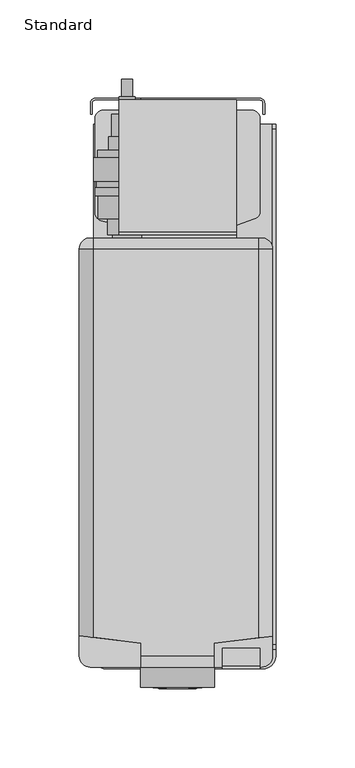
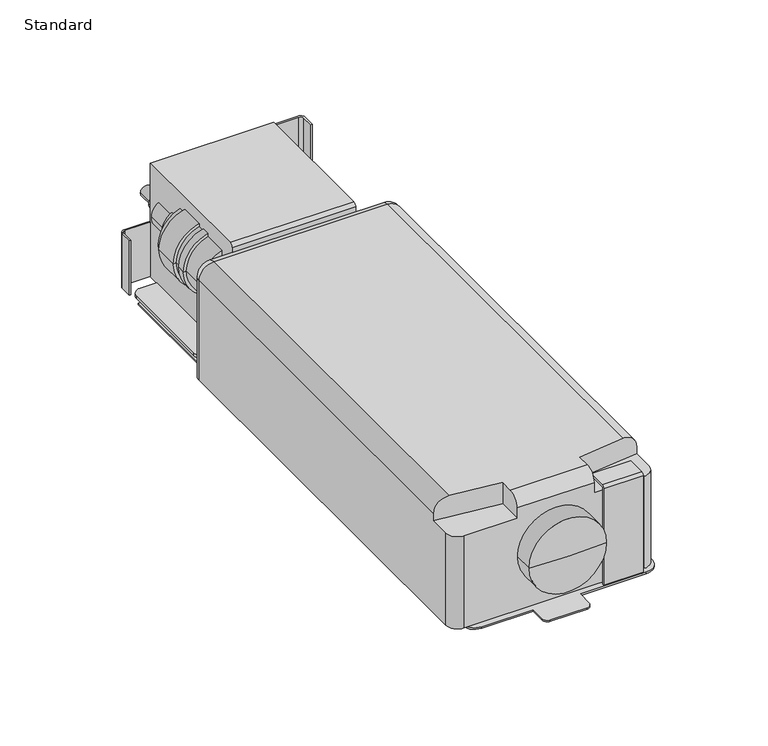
"""IFC4 building model written with IfcOpenShell, lengths in millimetres: proxy geometry, X_Soap Dispenser-Wall-Duracube-Automatic BMSD : Standard."""

from ifc_helpers import new_model, si_unit, point, frame, frame_2d, origin, origin_with_axes, place, context, project, spatial, polyline, circle_curve, ellipse_curve, trimmed, segment, composite_curve, outline, extrude, source, transform, mapped, element, save
from ifc_brep_helpers import plane_surface, cylinder_surface, revolved_surface, advanced_brep


def standard_a875b074(model_context):
    return source(origin(), model_context, "Body", "SolidModel", [
        advanced_brep(
        [(52.0496867, 180.0, 73.0), (-23.0637667, 180.0, 73.0), (-23.0637667, 179.0, 73.0), (52.0496867, 179.0, 73.0), (54.0496867, 177.0, 73.0), (54.0496867, 170.0, 73.0), (55.0496867, 170.0, 73.0), (55.0496867, 177.0, 73.0), (52.0496867, 180.0, 3.0), (55.0496867, 177.0, 3.0), (55.0496867, 170.0, 3.0), (54.0496867, 170.0, 3.0), (54.0496867, 177.0, 3.0), (52.0496867, 179.0, 3.0), (-51.9503133, 179.0, 3.0), (-53.9503133, 177.0, 3.0), (-53.9503133, 170.0, 3.0), (-54.9503133, 170.0, 3.0), (-54.9503133, 177.0, 3.0), (-51.9503133, 180.0, 3.0), (-23.0637667, 179.0, 37.5), (-51.9503133, 179.0, 37.5), (-53.9503133, 177.0, 37.5), (-53.9503133, 170.0, 37.5), (-54.9503133, 170.0, 37.5), (-54.9503133, 177.0, 37.5), (-51.9503133, 180.0, 37.5), (-23.0637667, 180.0, 37.5)],
        [
            (0, 1),
            (1, 2),
            (2, 3),
            (3, 4, circle_curve(frame((52.0496867, 177.0, 73.0), z_axis=(0.0, 0.0, -1.0), x_axis=(1.0, 0.0, 0.0)), 2.0)),
            (4, 5),
            (5, 6),
            (6, 7),
            (7, 0, circle_curve(frame((52.0496867, 177.0, 73.0), z_axis=(0.0, 0.0, 1.0), x_axis=(1.0, 0.0, 0.0)), 3.0)),
            (8, 9, circle_curve(frame((52.0496867, 177.0, 3.0), z_axis=(0.0, 0.0, -1.0), x_axis=(1.0, 0.0, 0.0)), 3.0)),
            (9, 10),
            (10, 11),
            (11, 12),
            (12, 13, circle_curve(frame((52.0496867, 177.0, 3.0), z_axis=(0.0, 0.0, 1.0), x_axis=(1.0, 0.0, 0.0)), 2.0)),
            (13, 14),
            (14, 15, circle_curve(frame((-51.9503133, 177.0, 3.0), z_axis=(0.0, 0.0, 1.0), x_axis=(1.0, 0.0, 0.0)), 2.0)),
            (15, 16),
            (16, 17),
            (17, 18),
            (18, 19, circle_curve(frame((-51.9503133, 177.0, 3.0), z_axis=(0.0, 0.0, -1.0), x_axis=(1.0, 0.0, 0.0)), 3.0)),
            (19, 8),
            (7, 9),
            (8, 0),
            (6, 10),
            (5, 11),
            (4, 12),
            (3, 13),
            (2, 20),
            (20, 21),
            (21, 14),
            (21, 22, circle_curve(frame((-51.9503133, 177.0, 37.5), z_axis=(0.0, 0.0, 1.0), x_axis=(1.0, 0.0, 0.0)), 2.0)),
            (22, 15),
            (22, 23),
            (23, 16),
            (23, 24),
            (24, 17),
            (24, 25),
            (25, 18),
            (25, 26, circle_curve(frame((-51.9503133, 177.0, 37.5), z_axis=(0.0, 0.0, -1.0), x_axis=(1.0, 0.0, 0.0)), 3.0)),
            (26, 19),
            (26, 27),
            (27, 1),
            (27, 20),
        ],
        [
            plane_surface(frame((55.0496867, 177.0, 73.0), z_axis=(0.0, 0.0, 1.0), x_axis=(0.0, -1.0, 0.0))),
            plane_surface(frame((55.0496867, 177.0, 3.0), z_axis=(0.0, 0.0, -1.0), x_axis=(0.0, 1.0, 0.0))),
            cylinder_surface(frame((52.0496867, 177.0, 3.0), z_axis=(0.0, 0.0, 1.0), x_axis=(1.0, 0.0, 0.0)), 3.0),
            plane_surface(frame((55.0496867, 177.0, 73.0), z_axis=(1.0, 0.0, 0.0), x_axis=(0.0, 0.0, -1.0))),
            plane_surface(frame((55.0496867, 170.0, 73.0), z_axis=(0.0, -1.0, 0.0), x_axis=(0.0, 0.0, -1.0))),
            plane_surface(frame((54.0496867, 170.0, 73.0), z_axis=(-1.0, 0.0, 0.0), x_axis=(0.0, 0.0, -1.0))),
            revolved_surface(polyline([(54.0496867, 177.0, 3.0), (54.0496867, 177.0, 73.0)]), (52.0496867, 177.0, 3.0), (0.0, 0.0, -1.0)),
            plane_surface(frame((52.0496867, 179.0, 73.0), z_axis=(0.0, -1.0, 0.0), x_axis=(0.0, 0.0, -1.0))),
            revolved_surface(polyline([(-49.9503133, 177.0, 3.0), (-49.9503133, 177.0, 37.5)]), (-51.9503133, 177.0, 3.0), (0.0, 0.0, -1.0)),
            plane_surface(frame((-53.9503133, 177.0, 73.0), z_axis=(1.0, 0.0, 0.0), x_axis=(0.0, 0.0, -1.0))),
            plane_surface(frame((-53.9503133, 170.0, 73.0), z_axis=(0.0, -1.0, 0.0), x_axis=(0.0, 0.0, -1.0))),
            plane_surface(frame((-54.9503133, 170.0, 73.0), z_axis=(-1.0, 0.0, 0.0), x_axis=(0.0, 0.0, -1.0))),
            cylinder_surface(frame((-51.9503133, 177.0, 3.0), z_axis=(0.0, 0.0, 1.0), x_axis=(1.0, 0.0, 0.0)), 3.0),
            plane_surface(frame((-51.9503133, 180.0, 73.0), z_axis=(0.0, 1.0, 0.0), x_axis=(0.0, 0.0, -1.0))),
            plane_surface(frame((-23.0637667, 170.0, 75.0), z_axis=(-1.0, 0.0, 0.0), x_axis=(0.0, 1.0, 0.0))),
            plane_surface(frame((-23.0637667, 170.0, 37.5), z_axis=(0.0, 0.0, 1.0), x_axis=(0.0, 1.0, 0.0))),
        ],
        [
            (0, [[1, 2, 3, 4, 5, 6, 7, 8]]),
            (1, [[9, 10, 11, 12, 13, 14, 15, 16, 17, 18, 19, 20]]),
            (2, [[21, -9, 22, -8]]),
            (3, [[23, -10, -21, -7]]),
            (4, [[24, -11, -23, -6]]),
            (5, [[25, -12, -24, -5]]),
            (6, [[26, -13, -25, -4]]),
            (7, [[-26, -3, 27, 28, 29, -14]]),
            (8, [[-29, 30, 31, -15]]),
            (9, [[-31, 32, 33, -16]]),
            (10, [[-33, 34, 35, -17]]),
            (11, [[-35, 36, 37, -18]]),
            (12, [[-37, 38, 39, -19]]),
            (13, [[-39, 40, 41, -1, -22, -20]]),
            (14, [[-27, -2, -41, 42]]),
            (15, [[-40, -38, -36, -34, -32, -30, -28, -42]]),
        ],
    ),
        extrude(outline(composite_curve([segment(polyline([(-46.9197394, 172.4794833), (47.0496867, 172.4794833)]), True, "CONTINUOUS"), segment(trimmed(circle_curve(frame_2d((47.0496867, 167.4794833)), 5.0), [point((47.0496867, 172.4794833))], [point((52.0496867, 167.4794833))], False, "CARTESIAN"), True, "CONTINUOUS"), segment(polyline([(52.0496867, 167.4794833), (52.0496867, 108.7326918)]), True, "CONTINUOUS"), segment(trimmed(circle_curve(frame_2d((47.0496867, 108.7326918)), 5.0), [point((52.0496867, 108.7326918))], [point((48.6775275, 104.0050989))], False, "CARTESIAN"), True, "CONTINUOUS"), segment(polyline([(48.6775275, 104.0050989), (37.1797908, 100.0461107), (37.1797908, 92.0), (-40.9493982, 92.0), (-40.9493982, 101.0605059), (-48.2138346, 103.0070058)]), True, "CONTINUOUS"), segment(trimmed(circle_curve(frame_2d((-46.9197394, 107.8366349)), 5.0), [point((-48.2138346, 103.0070058))], [point((-51.9197394, 107.8366349))], False, "CARTESIAN"), True, "CONTINUOUS"), segment(polyline([(-51.9197394, 107.8366349), (-51.9197394, 167.4794833)]), True, "CONTINUOUS"), segment(trimmed(circle_curve(frame_2d((-46.9197394, 167.4794833)), 5.0), [point((-51.9197394, 167.4794833))], [point((-46.9197394, 172.4794833))], False, "CARTESIAN"), True, "CONTINUOUS")], self_intersect=False)), frame((0.0, 0.0, 1.0), z_axis=(0.0, 0.0, 1.0), x_axis=(1.0, 0.0, 0.0)), (0.0, 0.0, 1.0), 2.0),
        extrude(outline(composite_curve([segment(polyline([(14.1113165, -179.474207), (14.1113165, -189.0)]), True, "CONTINUOUS"), segment(trimmed(circle_curve(frame_2d((11.1113165, -189.0)), 3.0), [point((14.1113165, -189.0))], [point((11.1113165, -192.0))], False, "CARTESIAN"), True, "CONTINUOUS"), segment(polyline([(11.1113165, -192.0), (-11.1113165, -192.0)]), True, "CONTINUOUS"), segment(trimmed(circle_curve(frame_2d((-11.1113165, -189.0)), 3.0), [point((-11.1113165, -192.0))], [point((-14.1113165, -189.0))], False, "CARTESIAN"), True, "CONTINUOUS"), segment(polyline([(-14.1113165, -189.0), (-14.1113165, -179.474207), (-45.0, -179.474207)]), True, "CONTINUOUS"), segment(trimmed(circle_curve(frame_2d((-45.0, -171.474207)), 8.0), [point((-45.0, -179.474207))], [point((-53.0, -171.474207))], False, "CARTESIAN"), True, "CONTINUOUS"), segment(polyline([(-53.0, -171.474207), (-53.0, 163.6786842), (62.0, 163.6786842), (62.0, -171.474207)]), True, "CONTINUOUS"), segment(trimmed(circle_curve(frame_2d((54.0, -171.474207)), 8.0), [point((62.0, -171.474207))], [point((54.0, -179.474207))], False, "CARTESIAN"), True, "CONTINUOUS"), segment(polyline([(54.0, -179.474207), (14.1113165, -179.474207)]), True, "CONTINUOUS")], self_intersect=False)), origin_with_axes(), (0.0, 0.0, 1.0), 1.0),
        extrude(outline(composite_curve([segment(polyline([(-178.474207, 1.0), (-167.286782, 1.0), (-167.286782, 0.0), (-177.974207, 0.0)]), True, "CONTINUOUS"), segment(trimmed(circle_curve(frame_2d((-177.974207, 1.5)), 1.5), [point((-177.974207, 0.0))], [point((-179.474207, 1.5))], False, "CARTESIAN"), True, "CONTINUOUS"), segment(polyline([(-179.474207, 1.5), (-179.474207, 62.8136562)]), True, "CONTINUOUS"), segment(trimmed(circle_curve(frame_2d((-177.974207, 62.8136562)), 1.5), [point((-179.474207, 62.8136562))], [point((-177.974207, 64.3136562))], False, "CARTESIAN"), True, "CONTINUOUS"), segment(polyline([(-177.974207, 64.3136562), (-166.474207, 64.3136562), (-166.474207, 63.3136562), (-178.474207, 63.3136562), (-178.474207, 1.0)]), True, "CONTINUOUS")], self_intersect=False)), frame((28.2978962, 0.0, 0.0), z_axis=(1.0, 0.0, 0.0), x_axis=(0.0, 1.0, 0.0)), (0.0, 0.0, 1.0), 23.7021038),
        extrude(outline(composite_curve([segment(polyline([(163.6786842, 9.0050868), (163.6786842, 0.0), (-167.286782, 0.0), (-167.286782, 9.0050868)]), True, "CONTINUOUS"), segment(trimmed(circle_curve(frame_2d((-164.286782, 9.0050868)), 3.0), [point((-167.286782, 9.0050868))], [point((-164.286782, 12.0050868))], False, "CARTESIAN"), True, "CONTINUOUS"), segment(polyline([(-164.286782, 12.0050868), (160.6786842, 12.0050868)]), True, "CONTINUOUS"), segment(trimmed(circle_curve(frame_2d((160.6786842, 9.0050868)), 3.0), [point((160.6786842, 12.0050868))], [point((163.6786842, 9.0050868))], False, "CARTESIAN"), True, "CONTINUOUS")], self_intersect=False)), frame((60.0, 0.0, 0.0), z_axis=(1.0, 0.0, 0.0), x_axis=(0.0, 1.0, 0.0)), (0.0, 0.0, 1.0), 2.0),
        advanced_brep(
        [(-35.9984832, 179.0, 73.0), (-35.9984832, 96.0, 73.0), (-35.9984832, 96.0, 3.0), (-35.9984832, 179.0, 3.0), (-36.9984832, 96.0, 75.0), (-36.9984832, 179.0, 75.0), (-36.9984832, 179.0, 3.0), (-36.9984832, 94.0, 3.0), (-36.9984832, 94.0, 73.0), (37.1797908, 179.0, 75.0), (37.1797908, 179.0, 3.0), (36.1797908, 179.0, 3.0), (36.1797908, 179.0, 73.0), (36.1797908, 96.0, 3.0), (37.1797908, 94.0, 3.0), (37.1797908, 96.0, 75.0), (37.1797908, 94.0, 73.0), (36.1797908, 96.0, 73.0)],
        [
            (0, 1),
            (1, 2),
            (2, 3),
            (3, 0),
            (4, 5),
            (5, 6),
            (6, 7),
            (7, 8),
            (8, 4, circle_curve(frame((-36.9984832, 96.0, 73.0), z_axis=(-1.0, 0.0, 0.0), x_axis=(0.0, -1.0, 0.0)), 2.0)),
            (3, 6),
            (5, 9),
            (9, 10),
            (10, 11),
            (11, 12),
            (12, 0),
            (2, 13),
            (13, 11),
            (10, 14),
            (14, 7),
            (15, 16, circle_curve(frame((37.1797908, 96.0, 73.0), z_axis=(1.0, 0.0, 0.0), x_axis=(0.0, -1.0, 0.0)), 2.0)),
            (16, 14),
            (9, 15),
            (4, 15),
            (12, 17),
            (17, 1),
            (17, 13),
            (16, 8),
        ],
        [
            plane_surface(frame((-35.9984832, 96.0, 75.0), z_axis=(1.0, 0.0, 0.0), x_axis=(0.0, 0.0, 1.0))),
            plane_surface(frame((-36.9984832, 96.0, 75.0), z_axis=(-1.0, 0.0, 0.0), x_axis=(0.0, 0.0, -1.0))),
            plane_surface(frame((-35.9984832, 179.0, 73.0), z_axis=(0.0, 1.0, 0.0), x_axis=(-1.0, 0.0, 0.0))),
            plane_surface(frame((-35.9984832, 179.0, 3.0), z_axis=(0.0, 0.0, -1.0), x_axis=(-1.0, 0.0, 0.0))),
            plane_surface(frame((37.1797908, 180.0, 75.0), z_axis=(1.0, 0.0, 0.0), x_axis=(0.0, 1.0, 0.0))),
            plane_surface(frame((37.1797908, 96.0, 75.0), z_axis=(0.0, 0.0, 1.0), x_axis=(-1.0, 0.0, 0.0))),
            plane_surface(frame((37.1797908, 179.0, 73.0), z_axis=(0.0, 0.0, -1.0), x_axis=(-1.0, 0.0, 0.0))),
            plane_surface(frame((37.1797908, 96.0, 73.0), z_axis=(0.0, 1.0, 0.0), x_axis=(-1.0, 0.0, 0.0))),
            plane_surface(frame((37.1797908, 94.0, 3.0), z_axis=(0.0, -1.0, 0.0), x_axis=(-1.0, 0.0, 0.0))),
            cylinder_surface(frame((-36.9984832, 96.0, 73.0), z_axis=(1.0, 0.0, 0.0), x_axis=(0.0, -1.0, 0.0)), 2.0),
            plane_surface(frame((36.1797908, 96.0, 75.0), z_axis=(-1.0, 0.0, 0.0), x_axis=(0.0, 0.0, -1.0))),
        ],
        [
            (0, [[1, 2, 3, 4]]),
            (1, [[5, 6, 7, 8, 9]]),
            (2, [[10, -6, 11, 12, 13, 14, 15, -4]]),
            (3, [[16, 17, -13, 18, 19, -7, -10, -3]]),
            (4, [[20, 21, -18, -12, 22]]),
            (5, [[-11, -5, 23, -22]]),
            (6, [[-15, 24, 25, -1]]),
            (7, [[-25, 26, -16, -2]]),
            (8, [[27, -8, -19, -21]]),
            (9, [[-23, -9, -27, -20]]),
            (10, [[-26, -24, -14, -17]]),
        ],
    ),
        advanced_brep(
        [(-19.512913, 94.0, 47.65625), (-22.759613, 94.0, 47.65625), (-40.9493982, 94.0, 47.65625), (-44.1960982, 94.0, 47.65625), (-19.512913, 104.0, 47.65625), (-44.1960982, 104.0, 47.65625), (-13.5082634, 104.0, 47.65625), (-50.2007478, 104.0, 47.65625), (-13.5082634, 118.5738192, 47.65625), (-50.2007478, 118.5738192, 47.65625), (-11.6579934, 118.5738192, 47.65625), (-52.0510177, 118.5738192, 47.65625), (-11.6579934, 123.5738192, 47.65625), (-52.0510177, 123.5738192, 47.65625), (-12.7751375, 123.5738192, 47.65625), (-50.9338736, 123.5738192, 47.65625), (-12.7751375, 127.6506151, 47.65625), (-50.9338736, 127.6506151, 47.65625), (-10.8899569, 127.6506151, 47.65625), (-52.8190543, 127.6506151, 47.65625), (-10.8899569, 142.6506151, 47.65625), (-52.8190543, 142.6506151, 47.65625), (-13.1940666, 142.6506151, 47.65625), (-50.5149446, 142.6506151, 47.65625), (-13.1940666, 147.200637, 47.65625), (-50.5149446, 147.200637, 47.65625), (-20.350771, 147.200637, 47.65625), (-43.3582401, 147.200637, 47.65625), (-20.350771, 155.9283253, 47.65625), (-43.3582401, 155.9283253, 47.65625), (-22.2359517, 155.9283253, 47.65625), (-41.4730595, 155.9283253, 47.65625), (-22.2359517, 169.9249192, 47.65625), (-41.4730595, 169.9249192, 47.65625), (-26.9062858, 169.9249192, 47.65625), (-36.8027254, 169.9249192, 47.65625), (-26.9062858, 181.0963603, 47.65625), (-36.8027254, 181.0963603, 47.65625), (-28.3330731, 181.0963603, 47.65625), (-35.3759381, 181.0963603, 47.65625), (-28.3330731, 192.0, 47.65625), (-35.3759381, 192.0, 47.65625), (-31.8545056, 192.0, 47.65625), (-22.759613, 92.0, 47.65625), (-31.8545056, 92.0, 47.65625), (-40.9493982, 92.0, 47.65625)],
        [
            (0, 1),
            (1, 2, circle_curve(frame((-31.8545056, 94.0, 47.65625), z_axis=(0.0, 1.0, 0.0), x_axis=(-1.0, 0.0, 0.0)), 9.0948926)),
            (2, 3),
            (3, 0, circle_curve(frame((-31.8545056, 94.0, 47.65625), z_axis=(0.0, -1.0, 0.0), x_axis=(-1.0, 0.0, 0.0)), 12.3415926)),
            (2, 1, circle_curve(frame((-31.8545056, 94.0, 47.65625), z_axis=(0.0, 1.0, 0.0), x_axis=(-1.0, 0.0, 0.0)), 9.0948926)),
            (0, 3, circle_curve(frame((-31.8545056, 94.0, 47.65625), z_axis=(0.0, -1.0, 0.0), x_axis=(-1.0, 0.0, 0.0)), 12.3415926)),
            (4, 0),
            (3, 5),
            (5, 4, circle_curve(frame((-31.8545056, 104.0, 47.65625), z_axis=(0.0, -1.0, 0.0), x_axis=(-1.0, 0.0, 0.0)), 12.3415926)),
            (4, 5, circle_curve(frame((-31.8545056, 104.0, 47.65625), z_axis=(0.0, -1.0, 0.0), x_axis=(-1.0, 0.0, 0.0)), 12.3415926)),
            (6, 4),
            (5, 7),
            (7, 6, circle_curve(frame((-31.8545056, 104.0, 47.65625), z_axis=(0.0, -1.0, 0.0), x_axis=(-1.0, 0.0, 0.0)), 18.3462422)),
            (6, 7, circle_curve(frame((-31.8545056, 104.0, 47.65625), z_axis=(0.0, -1.0, 0.0), x_axis=(-1.0, 0.0, 0.0)), 18.3462422)),
            (8, 6),
            (7, 9),
            (9, 8, circle_curve(frame((-31.8545056, 118.5738192, 47.65625), z_axis=(0.0, -1.0, 0.0), x_axis=(-1.0, 0.0, 0.0)), 18.3462422)),
            (8, 9, circle_curve(frame((-31.8545056, 118.5738192, 47.65625), z_axis=(0.0, -1.0, 0.0), x_axis=(-1.0, 0.0, 0.0)), 18.3462422)),
            (10, 8),
            (9, 11),
            (11, 10, circle_curve(frame((-31.8545056, 118.5738192, 47.65625), z_axis=(0.0, -1.0, 0.0), x_axis=(-1.0, 0.0, 0.0)), 20.1965122)),
            (10, 11, circle_curve(frame((-31.8545056, 118.5738192, 47.65625), z_axis=(0.0, -1.0, 0.0), x_axis=(-1.0, 0.0, 0.0)), 20.1965122)),
            (12, 10),
            (11, 13),
            (13, 12, circle_curve(frame((-31.8545056, 123.5738192, 47.65625), z_axis=(0.0, -1.0, 0.0), x_axis=(-1.0, 0.0, 0.0)), 20.1965122)),
            (12, 13, circle_curve(frame((-31.8545056, 123.5738192, 47.65625), z_axis=(0.0, -1.0, 0.0), x_axis=(-1.0, 0.0, 0.0)), 20.1965122)),
            (14, 12),
            (13, 15),
            (15, 14, circle_curve(frame((-31.8545056, 123.5738192, 47.65625), z_axis=(0.0, -1.0, 0.0), x_axis=(-1.0, 0.0, 0.0)), 19.079368)),
            (14, 15, circle_curve(frame((-31.8545056, 123.5738192, 47.65625), z_axis=(0.0, -1.0, 0.0), x_axis=(-1.0, 0.0, 0.0)), 19.079368)),
            (16, 14),
            (15, 17),
            (17, 16, circle_curve(frame((-31.8545056, 127.6506151, 47.65625), z_axis=(0.0, -1.0, 0.0), x_axis=(-1.0, 0.0, 0.0)), 19.079368)),
            (16, 17, circle_curve(frame((-31.8545056, 127.6506151, 47.65625), z_axis=(0.0, -1.0, 0.0), x_axis=(-1.0, 0.0, 0.0)), 19.079368)),
            (18, 16),
            (17, 19),
            (19, 18, circle_curve(frame((-31.8545056, 127.6506151, 47.65625), z_axis=(0.0, -1.0, 0.0), x_axis=(-1.0, 0.0, 0.0)), 20.9645487)),
            (18, 19, circle_curve(frame((-31.8545056, 127.6506151, 47.65625), z_axis=(0.0, -1.0, 0.0), x_axis=(-1.0, 0.0, 0.0)), 20.9645487)),
            (20, 18),
            (19, 21),
            (21, 20, circle_curve(frame((-31.8545056, 142.6506151, 47.65625), z_axis=(0.0, -1.0, 0.0), x_axis=(-1.0, 0.0, 0.0)), 20.9645487)),
            (20, 21, circle_curve(frame((-31.8545056, 142.6506151, 47.65625), z_axis=(0.0, -1.0, 0.0), x_axis=(-1.0, 0.0, 0.0)), 20.9645487)),
            (22, 20),
            (21, 23),
            (23, 22, circle_curve(frame((-31.8545056, 142.6506151, 47.65625), z_axis=(0.0, -1.0, 0.0), x_axis=(-1.0, 0.0, 0.0)), 18.660439)),
            (22, 23, circle_curve(frame((-31.8545056, 142.6506151, 47.65625), z_axis=(0.0, -1.0, 0.0), x_axis=(-1.0, 0.0, 0.0)), 18.660439)),
            (24, 22),
            (23, 25),
            (25, 24, circle_curve(frame((-31.8545056, 147.200637, 47.65625), z_axis=(0.0, -1.0, 0.0), x_axis=(-1.0, 0.0, 0.0)), 18.660439)),
            (24, 25, circle_curve(frame((-31.8545056, 147.200637, 47.65625), z_axis=(0.0, -1.0, 0.0), x_axis=(-1.0, 0.0, 0.0)), 18.660439)),
            (26, 24),
            (25, 27),
            (27, 26, circle_curve(frame((-31.8545056, 147.200637, 47.65625), z_axis=(0.0, -1.0, 0.0), x_axis=(-1.0, 0.0, 0.0)), 11.5037346)),
            (26, 27, circle_curve(frame((-31.8545056, 147.200637, 47.65625), z_axis=(0.0, -1.0, 0.0), x_axis=(-1.0, 0.0, 0.0)), 11.5037346)),
            (28, 26),
            (27, 29),
            (29, 28, circle_curve(frame((-31.8545056, 155.9283253, 47.65625), z_axis=(0.0, -1.0, 0.0), x_axis=(-1.0, 0.0, 0.0)), 11.5037346)),
            (28, 29, circle_curve(frame((-31.8545056, 155.9283253, 47.65625), z_axis=(0.0, -1.0, 0.0), x_axis=(-1.0, 0.0, 0.0)), 11.5037346)),
            (30, 28),
            (29, 31),
            (31, 30, circle_curve(frame((-31.8545056, 155.9283253, 47.65625), z_axis=(0.0, -1.0, 0.0), x_axis=(-1.0, 0.0, 0.0)), 9.6185539)),
            (30, 31, circle_curve(frame((-31.8545056, 155.9283253, 47.65625), z_axis=(0.0, -1.0, 0.0), x_axis=(-1.0, 0.0, 0.0)), 9.6185539)),
            (32, 30),
            (31, 33),
            (33, 32, circle_curve(frame((-31.8545056, 169.9249192, 47.65625), z_axis=(0.0, -1.0, 0.0), x_axis=(-1.0, 0.0, 0.0)), 9.6185539)),
            (32, 33, circle_curve(frame((-31.8545056, 169.9249192, 47.65625), z_axis=(0.0, -1.0, 0.0), x_axis=(-1.0, 0.0, 0.0)), 9.6185539)),
            (34, 32),
            (33, 35),
            (35, 34, circle_curve(frame((-31.8545056, 169.9249192, 47.65625), z_axis=(0.0, -1.0, 0.0), x_axis=(-1.0, 0.0, 0.0)), 4.9482198)),
            (34, 35, circle_curve(frame((-31.8545056, 169.9249192, 47.65625), z_axis=(0.0, -1.0, 0.0), x_axis=(-1.0, 0.0, 0.0)), 4.9482198)),
            (36, 34),
            (35, 37),
            (37, 36, circle_curve(frame((-31.8545056, 181.0963603, 47.65625), z_axis=(0.0, -1.0, 0.0), x_axis=(-1.0, 0.0, 0.0)), 4.9482198)),
            (36, 37, circle_curve(frame((-31.8545056, 181.0963603, 47.65625), z_axis=(0.0, -1.0, 0.0), x_axis=(-1.0, 0.0, 0.0)), 4.9482198)),
            (38, 36),
            (37, 39),
            (39, 38, circle_curve(frame((-31.8545056, 181.0963603, 47.65625), z_axis=(0.0, -1.0, 0.0), x_axis=(-1.0, 0.0, 0.0)), 3.5214325)),
            (38, 39, circle_curve(frame((-31.8545056, 181.0963603, 47.65625), z_axis=(0.0, -1.0, 0.0), x_axis=(-1.0, 0.0, 0.0)), 3.5214325)),
            (40, 38),
            (39, 41),
            (41, 40, circle_curve(frame((-31.8545056, 192.0, 47.65625), z_axis=(0.0, -1.0, 0.0), x_axis=(-1.0, 0.0, 0.0)), 3.5214325)),
            (40, 41, circle_curve(frame((-31.8545056, 192.0, 47.65625), z_axis=(0.0, -1.0, 0.0), x_axis=(-1.0, 0.0, 0.0)), 3.5214325)),
            (42, 40),
            (41, 42),
            (43, 44),
            (44, 45),
            (45, 43, circle_curve(frame((-31.8545056, 92.0, 47.65625), z_axis=(0.0, -1.0, 0.0), x_axis=(-1.0, 0.0, 0.0)), 9.0948926)),
            (43, 45, circle_curve(frame((-31.8545056, 92.0, 47.65625), z_axis=(0.0, -1.0, 0.0), x_axis=(-1.0, 0.0, 0.0)), 9.0948926)),
            (1, 43),
            (45, 2),
        ],
        [
            plane_surface(frame((-31.8545056, 94.0, 47.65625), z_axis=(0.0, -1.0, 0.0), x_axis=(-1.0, 0.0, 0.0))),
            cylinder_surface(frame((-31.8545056, 192.0, 47.65625), z_axis=(0.0, 1.0, 0.0), x_axis=(-1.0, 0.0, 0.0)), 12.3415926),
            plane_surface(frame((-31.8545056, 104.0, 47.65625), z_axis=(0.0, -1.0, 0.0), x_axis=(-1.0, 0.0, 0.0))),
            cylinder_surface(frame((-31.8545056, 192.0, 47.65625), z_axis=(0.0, 1.0, 0.0), x_axis=(-1.0, 0.0, 0.0)), 18.3462422),
            plane_surface(frame((-31.8545056, 118.5738192, 47.65625), z_axis=(0.0, -1.0, 0.0), x_axis=(-1.0, 0.0, 0.0))),
            cylinder_surface(frame((-31.8545056, 192.0, 47.65625), z_axis=(0.0, 1.0, 0.0), x_axis=(-1.0, 0.0, 0.0)), 20.1965122),
            plane_surface(frame((-31.8545056, 123.5738192, 47.65625), z_axis=(0.0, 1.0, 0.0), x_axis=(-1.0, 0.0, 0.0))),
            cylinder_surface(frame((-31.8545056, 192.0, 47.65625), z_axis=(0.0, 1.0, 0.0), x_axis=(-1.0, 0.0, 0.0)), 19.079368),
            plane_surface(frame((-31.8545056, 127.6506151, 47.65625), z_axis=(0.0, -1.0, 0.0), x_axis=(-1.0, 0.0, 0.0))),
            cylinder_surface(frame((-31.8545056, 192.0, 47.65625), z_axis=(0.0, 1.0, 0.0), x_axis=(-1.0, 0.0, 0.0)), 20.9645487),
            plane_surface(frame((-31.8545056, 142.6506151, 47.65625), z_axis=(0.0, 1.0, 0.0), x_axis=(-1.0, 0.0, 0.0))),
            cylinder_surface(frame((-31.8545056, 192.0, 47.65625), z_axis=(0.0, 1.0, 0.0), x_axis=(-1.0, 0.0, 0.0)), 18.660439),
            plane_surface(frame((-31.8545056, 147.200637, 47.65625), z_axis=(0.0, 1.0, 0.0), x_axis=(-1.0, 0.0, 0.0))),
            cylinder_surface(frame((-31.8545056, 192.0, 47.65625), z_axis=(0.0, 1.0, 0.0), x_axis=(-1.0, 0.0, 0.0)), 11.5037346),
            plane_surface(frame((-31.8545056, 155.9283253, 47.65625), z_axis=(0.0, 1.0, 0.0), x_axis=(-1.0, 0.0, 0.0))),
            cylinder_surface(frame((-31.8545056, 192.0, 47.65625), z_axis=(0.0, 1.0, 0.0), x_axis=(-1.0, 0.0, 0.0)), 9.6185539),
            plane_surface(frame((-31.8545056, 169.9249192, 47.65625), z_axis=(0.0, 1.0, 0.0), x_axis=(-1.0, 0.0, 0.0))),
            cylinder_surface(frame((-31.8545056, 192.0, 47.65625), z_axis=(0.0, 1.0, 0.0), x_axis=(-1.0, 0.0, 0.0)), 4.9482198),
            plane_surface(frame((-31.8545056, 181.0963603, 47.65625), z_axis=(0.0, 1.0, 0.0), x_axis=(-1.0, 0.0, 0.0))),
            cylinder_surface(frame((-31.8545056, 192.0, 47.65625), z_axis=(0.0, 1.0, 0.0), x_axis=(-1.0, 0.0, 0.0)), 3.5214325),
            plane_surface(frame((-31.8545056, 192.0, 47.65625), z_axis=(0.0, 1.0, 0.0), x_axis=(-1.0, 0.0, 0.0))),
            plane_surface(frame((-31.8545056, 92.0, 47.65625), z_axis=(0.0, -1.0, 0.0), x_axis=(-1.0, 0.0, 0.0))),
            cylinder_surface(frame((-31.8545056, 192.0, 47.65625), z_axis=(0.0, 1.0, 0.0), x_axis=(-1.0, 0.0, 0.0)), 9.0948926),
        ],
        [
            (0, [[1, 2, 3, 4]]),
            (0, [[-3, 5, -1, 6]]),
            (1, [[7, -4, 8, 9]]),
            (1, [[-8, -6, -7, 10]]),
            (2, [[11, -9, 12, 13]]),
            (2, [[-12, -10, -11, 14]]),
            (3, [[15, -13, 16, 17]]),
            (3, [[-16, -14, -15, 18]]),
            (4, [[19, -17, 20, 21]]),
            (4, [[-20, -18, -19, 22]]),
            (5, [[23, -21, 24, 25]]),
            (5, [[-24, -22, -23, 26]]),
            (6, [[27, -25, 28, 29]]),
            (6, [[-28, -26, -27, 30]]),
            (7, [[31, -29, 32, 33]]),
            (7, [[-32, -30, -31, 34]]),
            (8, [[35, -33, 36, 37]]),
            (8, [[-36, -34, -35, 38]]),
            (9, [[39, -37, 40, 41]]),
            (9, [[-40, -38, -39, 42]]),
            (10, [[43, -41, 44, 45]]),
            (10, [[-44, -42, -43, 46]]),
            (11, [[47, -45, 48, 49]]),
            (11, [[-48, -46, -47, 50]]),
            (12, [[51, -49, 52, 53]]),
            (12, [[-52, -50, -51, 54]]),
            (13, [[55, -53, 56, 57]]),
            (13, [[-56, -54, -55, 58]]),
            (14, [[59, -57, 60, 61]]),
            (14, [[-60, -58, -59, 62]]),
            (15, [[63, -61, 64, 65]]),
            (15, [[-64, -62, -63, 66]]),
            (16, [[67, -65, 68, 69]]),
            (16, [[-68, -66, -67, 70]]),
            (17, [[71, -69, 72, 73]]),
            (17, [[-72, -70, -71, 74]]),
            (18, [[75, -73, 76, 77]]),
            (18, [[-76, -74, -75, 78]]),
            (19, [[79, -77, 80, 81]]),
            (19, [[-80, -78, -79, 82]]),
            (20, [[83, -81, 84]]),
            (20, [[-84, -82, -83]]),
            (21, [[85, 86, 87]]),
            (21, [[-86, -85, 88]]),
            (22, [[89, -87, 90, -2]]),
            (22, [[-90, -88, -89, -5]]),
        ],
    ),
        advanced_brep(
        [(53.0, -178.474207, 3.0), (53.0, -178.474207, 61.4037243), (23.0637667, -178.474207, 61.4037243), (23.0637667, -178.474207, 68.0), (-23.0637667, -178.474207, 68.0), (-23.0637667, -178.474207, 61.4037243), (-55.0, -178.474207, 61.4037243), (-55.0, -178.474207, 3.0), (53.0, 92.0, 3.0), (-55.0, 92.0, 3.0), (-55.0, 92.0, 66.0), (-53.0, 92.0, 68.0), (51.0, 92.0, 68.0), (53.0, 92.0, 66.0), (-62.0, -171.474207, 3.0), (-62.0, 85.0, 3.0), (60.0, 85.0, 3.0), (60.0, -171.474207, 3.0), (60.0, -171.474207, 61.4037243), (60.0, 85.0, 66.0), (60.0, -158.8299215, 66.0), (60.0, -158.8299215, 61.4037243), (23.0637667, -171.474207, 75.0), (-23.0637667, -171.474207, 75.0), (-53.0, 85.0, 75.0), (-53.0, -159.6894134, 75.0), (-23.0637667, -163.3651207, 75.0), (23.0637667, -163.3651207, 75.0), (51.0, -159.9349825, 75.0), (51.0, 85.0, 75.0), (-62.0, -171.474207, 61.4037243), (-62.0, -158.5843524, 61.4037243), (-62.0, -158.5843524, 66.0), (-62.0, 85.0, 66.0), (23.0637667, -163.3651207, 61.4037243), (-23.0637667, -163.3651207, 61.4037243)],
        [
            (0, 1),
            (1, 2),
            (2, 3),
            (3, 4),
            (4, 5),
            (5, 6),
            (6, 7),
            (7, 0),
            (8, 9),
            (9, 10),
            (10, 11, circle_curve(frame((-53.0, 92.0, 66.0), z_axis=(0.0, 1.0, 0.0), x_axis=(0.0, 0.0, 1.0)), 2.0)),
            (11, 12),
            (12, 13, circle_curve(frame((51.0, 92.0, 66.0), z_axis=(0.0, 1.0, 0.0), x_axis=(1.0, 0.0, 0.0)), 2.0)),
            (13, 8),
            (7, 14, circle_curve(frame((-55.0, -171.474207, 3.0), z_axis=(0.0, 0.0, -1.0), x_axis=(-1.0, 0.0, 0.0)), 7.0)),
            (14, 15),
            (15, 9, circle_curve(frame((-55.0, 85.0, 3.0), z_axis=(0.0, 0.0, -1.0), x_axis=(-1.0, 0.0, 0.0)), 7.0)),
            (8, 16, circle_curve(frame((53.0, 85.0, 3.0), z_axis=(0.0, 0.0, -1.0), x_axis=(1.0, 0.0, 0.0)), 7.0)),
            (16, 17),
            (17, 0, circle_curve(frame((53.0, -171.474207, 3.0), z_axis=(0.0, 0.0, -1.0), x_axis=(1.0, 0.0, 0.0)), 7.0)),
            (17, 18),
            (18, 1, circle_curve(frame((53.0, -171.474207, 61.4037243), z_axis=(0.0, 0.0, -1.0), x_axis=(1.0, 0.0, 0.0)), 7.0)),
            (16, 19),
            (19, 20),
            (20, 21),
            (21, 18),
            (13, 19, circle_curve(frame((53.0, 85.0, 66.0), z_axis=(0.0, 0.0, -1.0), x_axis=(1.0, 0.0, 0.0)), 7.0)),
            (3, 22, circle_curve(frame((23.0637667, -171.474207, 68.0), z_axis=(-1.0, 0.0, 0.0), x_axis=(0.0, 0.0, 1.0)), 7.0)),
            (22, 23),
            (23, 4, circle_curve(frame((-23.0637667, -171.474207, 68.0), z_axis=(1.0, 0.0, 0.0), x_axis=(0.0, 0.0, 1.0)), 7.0)),
            (24, 25),
            (25, 26),
            (26, 23),
            (22, 27),
            (27, 28),
            (28, 29),
            (29, 24),
            (11, 24, circle_curve(frame((-53.0, 85.0, 68.0), z_axis=(1.0, 0.0, 0.0), x_axis=(0.0, 0.0, 1.0)), 7.0)),
            (29, 12, circle_curve(frame((51.0, 85.0, 68.0), z_axis=(-1.0, 0.0, 0.0), x_axis=(0.0, 0.0, 1.0)), 7.0)),
            (6, 30, circle_curve(frame((-55.0, -171.474207, 61.4037243), z_axis=(0.0, 0.0, -1.0), x_axis=(-1.0, 0.0, 0.0)), 7.0)),
            (30, 14),
            (30, 31),
            (31, 32),
            (32, 33),
            (33, 15),
            (33, 10, circle_curve(frame((-55.0, 85.0, 66.0), z_axis=(0.0, 0.0, -1.0), x_axis=(-1.0, 0.0, 0.0)), 7.0)),
            (28, 20, ellipse_curve(frame((51.0, -159.9349825, 66.0), z_axis=(-0.1218693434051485, 0.992546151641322, 0.0), x_axis=(0.9925461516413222, 0.1218693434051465, 0.0)), 9.0675884, 9.0)),
            (19, 29, circle_curve(frame((51.0, 85.0, 66.0), z_axis=(0.0, -1.0, 0.0), x_axis=(1.0, 0.0, 0.0)), 9.0)),
            (32, 25, ellipse_curve(frame((-53.0, -159.6894134, 66.0), z_axis=(0.12186934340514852, 0.9925461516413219, 0.0), x_axis=(-0.992546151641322, 0.12186934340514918, 0.0)), 9.0675884, 9.0)),
            (24, 33, circle_curve(frame((-53.0, 85.0, 66.0), z_axis=(0.0, -1.0, 0.0), x_axis=(0.0, 0.0, 1.0)), 9.0)),
            (21, 34),
            (34, 2),
            (5, 35),
            (35, 31),
            (35, 26),
            (34, 27),
        ],
        [
            plane_surface(frame((52.0, -178.474207, 0.0), z_axis=(0.0, -1.0, 0.0), x_axis=(0.0, 0.0, -1.0))),
            plane_surface(frame((52.0, 92.0, 0.0), z_axis=(0.0, 1.0, 0.0), x_axis=(0.0, 0.0, 1.0))),
            plane_surface(frame((52.0, -178.474207, 3.0), z_axis=(0.0, 0.0, -1.0), x_axis=(0.0, 1.0, 0.0))),
            cylinder_surface(frame((53.0, -171.474207, 3.0), z_axis=(0.0, 0.0, -1.0), x_axis=(1.0, 0.0, 0.0)), 7.0),
            plane_surface(frame((60.0, -171.474207, 3.0), z_axis=(1.0, 0.0, 0.0), x_axis=(0.0, 0.0, 1.0))),
            cylinder_surface(frame((53.0, 85.0, 3.0), z_axis=(0.0, 0.0, -1.0), x_axis=(1.0, 0.0, 0.0)), 7.0),
            cylinder_surface(frame((51.0, -171.474207, 68.0), z_axis=(1.0, 0.0, 0.0), x_axis=(0.0, 0.0, 1.0)), 7.0),
            plane_surface(frame((51.0, -171.474207, 75.0), z_axis=(0.0, 0.0, 1.0), x_axis=(-1.0, 0.0, 0.0))),
            cylinder_surface(frame((51.0, 85.0, 68.0), z_axis=(1.0, 0.0, 0.0), x_axis=(0.0, 0.0, 1.0)), 7.0),
            cylinder_surface(frame((-55.0, -171.474207, 66.0), z_axis=(0.0, 0.0, 1.0), x_axis=(-1.0, 0.0, 0.0)), 7.0),
            plane_surface(frame((-62.0, -171.474207, 66.0), z_axis=(-1.0, 0.0, 0.0), x_axis=(0.0, 0.0, -1.0))),
            cylinder_surface(frame((-55.0, 85.0, 66.0), z_axis=(0.0, 0.0, 1.0), x_axis=(-1.0, 0.0, 0.0)), 7.0),
            cylinder_surface(frame((51.0, -192.0, 66.0), z_axis=(0.0, 1.0, 0.0), x_axis=(1.0, 0.0, 0.0)), 9.0),
            revolved_surface(trimmed(ellipse_curve(frame((53.0, 85.0, 66.0), z_axis=(0.0, 0.0, 1.0), x_axis=(1.0, 0.0, 0.0)), 7.0, 7.0), [point((60.0, 85.0, 66.0))], [point((53.0, 92.0, 66.0))], True, "CARTESIAN"), (51.0, -192.0, 66.0), (0.0, 1.0, 0.0)),
            cylinder_surface(frame((-53.0, -192.0, 66.0), z_axis=(0.0, 1.0, 0.0), x_axis=(0.0, 0.0, 1.0)), 9.0),
            revolved_surface(trimmed(ellipse_curve(frame((-53.0, 85.0, 68.0), z_axis=(-1.0, 0.0, 0.0), x_axis=(0.0, 0.0, 1.0)), 7.0, 7.0), [point((-53.0, 85.0, 75.0))], [point((-53.0, 92.0, 68.0))], True, "CARTESIAN"), (-53.0, -192.0, 66.0), (0.0, 1.0, 0.0)),
            plane_surface(frame((-26.2937944, -162.9685231, 61.4037243), z_axis=(0.0, 0.0, 1.0), x_axis=(-0.9925461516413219, 0.12186934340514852, 0.0))),
            plane_surface(frame((-62.0, -158.5843524, 75.0), z_axis=(-0.12186934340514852, -0.9925461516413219, 0.0), x_axis=(0.0, 0.0, -1.0))),
            plane_surface(frame((-23.0637667, -163.3651207, 75.0), z_axis=(-1.0, 0.0, 0.0), x_axis=(0.0, 0.0, -1.0))),
            plane_surface(frame((23.0637667, -192.0, 75.0), z_axis=(1.0, 0.0, 0.0), x_axis=(0.0, 0.0, -1.0))),
            plane_surface(frame((23.0637667, -163.3651207, 75.0), z_axis=(0.1218693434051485, -0.992546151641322, 0.0), x_axis=(0.0, 0.0, -1.0))),
        ],
        [
            (0, [[1, 2, 3, 4, 5, 6, 7, 8]]),
            (1, [[9, 10, 11, 12, 13, 14]]),
            (2, [[-8, 15, 16, 17, -9, 18, 19, 20]]),
            (3, [[21, 22, -1, -20]]),
            (4, [[23, 24, 25, 26, -21, -19]]),
            (5, [[-14, 27, -23, -18]]),
            (6, [[28, 29, 30, -4]]),
            (7, [[31, 32, 33, -29, 34, 35, 36, 37]]),
            (8, [[38, -37, 39, -12]]),
            (9, [[-7, 40, 41, -15]]),
            (10, [[-41, 42, 43, 44, 45, -16]]),
            (11, [[-17, -45, 46, -10]]),
            (12, [[-36, 47, -24, 48]]),
            (13, [[-13, -39, -48, -27]]),
            (14, [[-44, 49, -31, 50]]),
            (15, [[-46, -50, -38, -11]]),
            (16, [[-2, -22, -26, 51, 52]]),
            (16, [[-42, -40, -6, 53, 54]]),
            (17, [[55, -32, -49, -43, -54]]),
            (18, [[-53, -5, -30, -33, -55]]),
            (19, [[-34, -28, -3, -52, 56]]),
            (20, [[-51, -25, -47, -35, -56]]),
        ],
    ),
        advanced_brep(
        [(23.1980148, -191.0936038, 37.5), (0.0, -192.0, 37.5), (-23.1980148, -191.0936038, 37.5), (23.1980148, -178.474207, 37.5), (-23.1980148, -178.474207, 37.5), (0.0, -178.474207, 37.5)],
        [
            (0, 1, circle_curve(frame((0.0, 105.314475, 37.5), z_axis=(0.0, 0.0, -1.0), x_axis=(0.0, -1.0, 0.0)), 297.314475)),
            (1, 2, circle_curve(frame((0.0, 105.314475, 37.5), z_axis=(0.0, 0.0, -1.0), x_axis=(0.0, -1.0, 0.0)), 297.314475)),
            (2, 0, circle_curve(frame((0.0, -191.0936038, 37.5), z_axis=(0.0, -1.0, 0.0), x_axis=(-1.0, 0.0, 0.0)), 23.1980148)),
            (0, 2, circle_curve(frame((0.0, -191.0936038, 37.5), z_axis=(0.0, -1.0, 0.0), x_axis=(-1.0, 0.0, 0.0)), 23.1980148)),
            (3, 0),
            (2, 4),
            (4, 3, circle_curve(frame((0.0, -178.474207, 37.5), z_axis=(0.0, -1.0, 0.0), x_axis=(-1.0, 0.0, 0.0)), 23.1980148)),
            (3, 4, circle_curve(frame((0.0, -178.474207, 37.5), z_axis=(0.0, -1.0, 0.0), x_axis=(-1.0, 0.0, 0.0)), 23.1980148)),
            (5, 3),
            (4, 5),
        ],
        [
            revolved_surface(trimmed(ellipse_curve(frame((0.0, 105.314475, 37.5), z_axis=(0.0, 0.0, -1.0), x_axis=(0.0, -1.0, 0.0)), 297.314475, 297.314475), [point((0.0, -192.0, 37.5))], [point((-23.1980148, -191.0936038, 37.5))], True, "CARTESIAN"), (0.0, -178.474207, 37.5), (0.0, 1.0, 0.0)),
            cylinder_surface(frame((0.0, -178.474207, 37.5), z_axis=(0.0, 1.0, 0.0), x_axis=(-1.0, 0.0, 0.0)), 23.1980148),
            plane_surface(frame((0.0, -178.474207, 37.5), z_axis=(0.0, 1.0, 0.0), x_axis=(-1.0, 0.0, 0.0))),
        ],
        [
            (0, [[1, 2, 3]]),
            (0, [[-2, -1, 4]]),
            (1, [[5, -3, 6, 7]]),
            (1, [[-6, -4, -5, 8]]),
            (2, [[9, -7, 10]]),
            (2, [[-10, -8, -9]]),
        ],
    ),
    ])


if __name__ == "__main__":
    model = new_model("IFC4")
    model_context = context("Model", 3, world=origin())
    ifc_project = project(units=[si_unit("LENGTHUNIT", "METRE", prefix="MILLI")], contexts=[model_context])
    site = spatial("IfcSite", under=ifc_project)
    building = spatial("IfcBuilding", under=site)
    placement = place(None, origin())
    standard_shape = standard_a875b074(model_context)
    element("IfcBuildingElementProxy", 1, Name="X_Soap Dispenser-Wall-Duracube-Automatic BMSD : Standard", ObjectType="X_Soap Dispenser-Wall-Duracube-Automatic BMSD : Standard", at=placement, inside=building, context=model_context, shape_type="MappedRepresentation", body=[
        mapped(standard_shape, transform((0.0, 0.0, 0.0), x_axis=(1.0, 0.0, 0.0), y_axis=(0.0, 1.0, 0.0), z_axis=(0.0, 0.0, 1.0))),
    ])
    save(model, "model.ifc")
